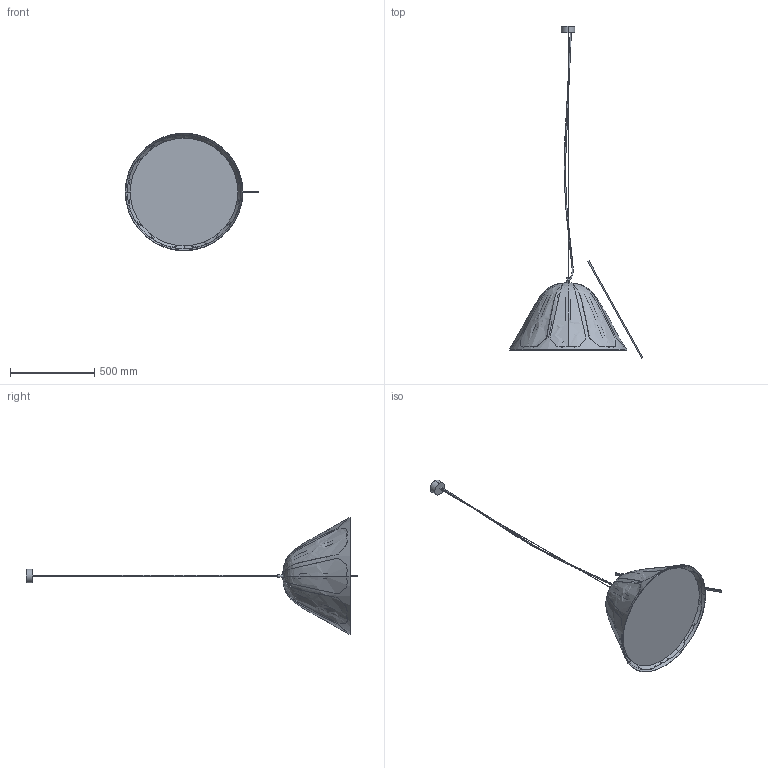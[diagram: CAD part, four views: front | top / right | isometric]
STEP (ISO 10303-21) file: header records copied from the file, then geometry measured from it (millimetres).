
FILE_DESCRIPTION (( 'STEP AP214' ), '1' );
FILE_NAME ('Tulip.STEP', '2019-03-15T05:58:39', ( '' ), ( '' ), 'SwSTEP 2.0', 'SolidWorks 2017', '' );
FILE_SCHEMA (( 'AUTOMOTIVE_DESIGN' ));
Length unit declared in the file: millimetre
Products named in the file (1): Tulip
Bounding box: 794.62 x 1976 x 700 mm (x, y, z)
Volume: 7192888.4 mm3; surface area: 4276467.4 mm2
Topology: 10 solids, 10 shells, 164 faces, 447 edges, 294 vertices
Faces by surface type: bspline 84, plane 70, cylinder 10
Entity records: 12033 total; most frequent: CARTESIAN_POINT 8603, ORIENTED_EDGE 878, EDGE_CURVE 439, DIRECTION 345, VERTEX_POINT 294, B_SPLINE_CURVE_WITH_KNOTS 284, EDGE_LOOP 165, ADVANCED_FACE 164
